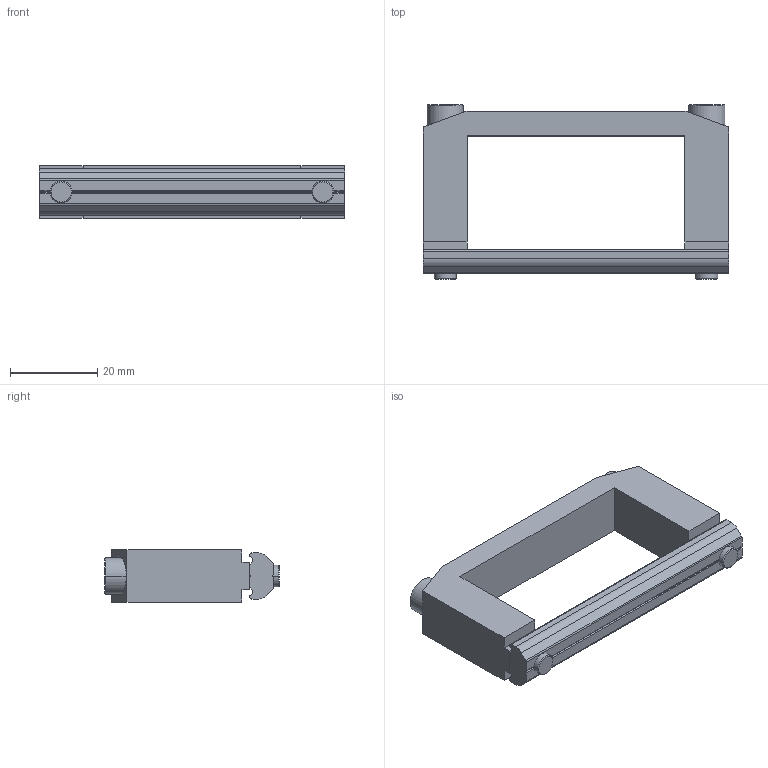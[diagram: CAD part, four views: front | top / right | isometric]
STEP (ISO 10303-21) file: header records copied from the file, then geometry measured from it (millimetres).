
FILE_DESCRIPTION (( 'STEP AP214' ), '1' );
FILE_NAME ('SMBB-2550.STEP', '2019-10-31T03:56:41', ( '微软用户' ), ( '微软中国' ), 'SwSTEP 2.0', 'SolidWorks 2016', '' );
FILE_SCHEMA (( 'AUTOMOTIVE_DESIGN' ));
Length unit declared in the file: millimetre
Products named in the file (5): PTN-M5P60; PTC-M5L35; PTS-M5; SMBB-2550
Assembly tree (6 placements, depth 2):
  SMBB-2550
    SMBB-2550
    PTS-M5  x2
    PTC-M5L35  x2
    PTN-M5P60
Bounding box: 70 x 40 x 12 mm (x, y, z)
Volume: 14021.3 mm3; surface area: 9864.9 mm2
Topology: 6 solids, 6 shells, 448 faces, 1302 edges, 864 vertices
Faces by surface type: plane 390, cylinder 46, cone 12
Entity records: 9100 total; most frequent: CARTESIAN_POINT 1755, ORIENTED_EDGE 1536, DIRECTION 1508, EDGE_CURVE 768, VERTEX_POINT 510, AXIS2_PLACEMENT_3D 503, VECTOR 502, LINE 502
